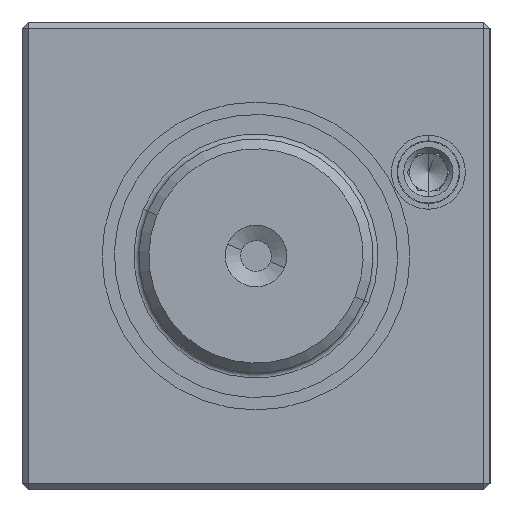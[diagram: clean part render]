
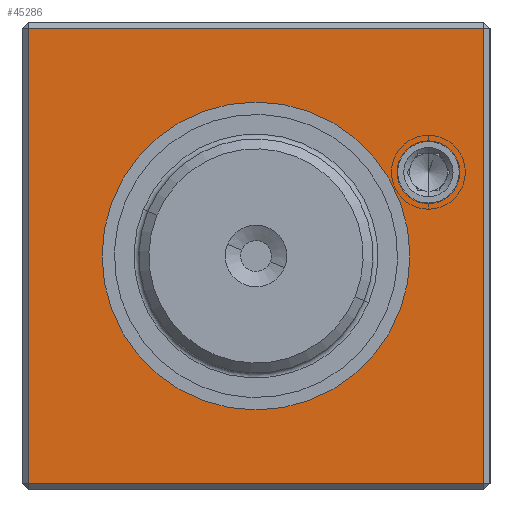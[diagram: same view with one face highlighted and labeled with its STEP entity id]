
A CAD part, left-side view. The second image highlights one B-rep face of the part: STEP entity #45286.
In plain terms, the highlighted planar face has unit normal (-1, 0, 0).
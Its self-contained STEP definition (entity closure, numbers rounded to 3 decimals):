
#2945 = AXIS2_PLACEMENT_3D ( 'NONE', #35385, #35386, #35387 ) ;
#3591 = EDGE_LOOP ( 'NONE', ( #6377, #6378, #6379, #6380 ) ) ;
#4369 = EDGE_LOOP ( 'NONE', ( #6381, #6382 ) ) ;
#4374 = EDGE_LOOP ( 'NONE', ( #6383, #6384 ) ) ;
#6377 = ORIENTED_EDGE ( 'NONE', *, *, #18774, .T. ) ;
#6378 = ORIENTED_EDGE ( 'NONE', *, *, #18776, .T. ) ;
#6379 = ORIENTED_EDGE ( 'NONE', *, *, #18778, .T. ) ;
#6380 = ORIENTED_EDGE ( 'NONE', *, *, #18780, .T. ) ;
#6381 = ORIENTED_EDGE ( 'NONE', *, *, #18782, .F. ) ;
#6382 = ORIENTED_EDGE ( 'NONE', *, *, #18292, .F. ) ;
#6383 = ORIENTED_EDGE ( 'NONE', *, *, #18785, .F. ) ;
#6384 = ORIENTED_EDGE ( 'NONE', *, *, #18525, .F. ) ;
#18292 = EDGE_CURVE ( 'NONE', #56727, #56728, #43669, .T. ) ;
#18525 = EDGE_CURVE ( 'NONE', #56841, #56842, #43999, .T. ) ;
#18774 = EDGE_CURVE ( 'NONE', #56916, #56901, #44328, .T. ) ;
#18776 = EDGE_CURVE ( 'NONE', #56901, #56921, #44339, .T. ) ;
#18778 = EDGE_CURVE ( 'NONE', #56921, #56922, #44346, .T. ) ;
#18780 = EDGE_CURVE ( 'NONE', #56922, #56916, #44342, .T. ) ;
#18782 = EDGE_CURVE ( 'NONE', #56728, #56727, #44353, .T. ) ;
#18785 = EDGE_CURVE ( 'NONE', #56842, #56841, #44359, .T. ) ;
#35154 = FACE_OUTER_BOUND ( 'NONE', #3591, .T. ) ;
#35155 = FACE_BOUND ( 'NONE', #4374, .T. ) ;
#35158 = FACE_BOUND ( 'NONE', #4369, .T. ) ;
#35374 = PLANE ( 'NONE',  #2945 ) ;
#35385 = CARTESIAN_POINT ( 'NONE',  ( 0., -19., 19. ) ) ;
#35386 = DIRECTION ( 'NONE',  ( 1., 0., 0. ) ) ;
#35387 = DIRECTION ( 'NONE',  ( 0., 0., -1. ) ) ;
#36358 = CARTESIAN_POINT ( 'NONE',  ( 0., -14., 4.3 ) ) ;
#36359 = CARTESIAN_POINT ( 'NONE',  ( 0., -14., 9.3 ) ) ;
#36472 = CARTESIAN_POINT ( 'NONE',  ( 0., 12.5, 0. ) ) ;
#36473 = CARTESIAN_POINT ( 'NONE',  ( 0., -12.5, 0. ) ) ;
#36532 = CARTESIAN_POINT ( 'NONE',  ( 0., 18.5, -18.5 ) ) ;
#36547 = CARTESIAN_POINT ( 'NONE',  ( 0., 18.5, 18.5 ) ) ;
#36552 = CARTESIAN_POINT ( 'NONE',  ( 0., -18.5, -18.5 ) ) ;
#36553 = CARTESIAN_POINT ( 'NONE',  ( 0., -18.5, 18.5 ) ) ;
#43523 = CARTESIAN_POINT ( 'NONE',  ( 0., 0., 0. ) ) ;
#43525 = DIRECTION ( 'NONE',  ( -1., 0., 0. ) ) ;
#43527 = DIRECTION ( 'NONE',  ( 0., -1., 0. ) ) ;
#43669 = CIRCLE ( 'NONE', #52365, 2.5 ) ;
#43999 = CIRCLE ( 'NONE', #52437, 12.5 ) ;
#44328 = LINE ( 'NONE', #44795, #44344 ) ;
#44339 = LINE ( 'NONE', #44788, #44349 ) ;
#44342 = LINE ( 'NONE', #44809, #44361 ) ;
#44344 = VECTOR ( 'NONE', #44786, 1000. ) ;
#44346 = LINE ( 'NONE', #44805, #44356 ) ;
#44349 = VECTOR ( 'NONE', #44793, 1000. ) ;
#44353 = CIRCLE ( 'NONE', #52501, 2.5 ) ;
#44356 = VECTOR ( 'NONE', #44814, 1000. ) ;
#44359 = CIRCLE ( 'NONE', #52503, 12.5 ) ;
#44361 = VECTOR ( 'NONE', #44820, 1000. ) ;
#44786 = DIRECTION ( 'NONE',  ( 0., 0., -1. ) ) ;
#44788 = CARTESIAN_POINT ( 'NONE',  ( 0., -19., -18.5 ) ) ;
#44793 = DIRECTION ( 'NONE',  ( 0., -1., 0. ) ) ;
#44795 = CARTESIAN_POINT ( 'NONE',  ( 0., 18.5, 19. ) ) ;
#44805 = CARTESIAN_POINT ( 'NONE',  ( 0., -18.5, 19. ) ) ;
#44809 = CARTESIAN_POINT ( 'NONE',  ( 0., -19., 18.5 ) ) ;
#44814 = DIRECTION ( 'NONE',  ( 0., 0., 1. ) ) ;
#44820 = DIRECTION ( 'NONE',  ( 0., 1., 0. ) ) ;
#44832 = CARTESIAN_POINT ( 'NONE',  ( 0., -14., 6.8 ) ) ;
#44835 = DIRECTION ( 'NONE',  ( -1., 0., 0. ) ) ;
#44838 = DIRECTION ( 'NONE',  ( 0., 0., 1. ) ) ;
#44845 = CARTESIAN_POINT ( 'NONE',  ( 0., 0., 0. ) ) ;
#44847 = DIRECTION ( 'NONE',  ( -1., 0., 0. ) ) ;
#44850 = DIRECTION ( 'NONE',  ( 0., -1., 0. ) ) ;
#45286 = ADVANCED_FACE ( 'NONE', ( #35154, #35158, #35155 ), #35374, .F. ) ;
#47983 = CARTESIAN_POINT ( 'NONE',  ( 0., -14., 6.8 ) ) ;
#47984 = DIRECTION ( 'NONE',  ( -1., 0., 0. ) ) ;
#47985 = DIRECTION ( 'NONE',  ( 0., 0., 1. ) ) ;
#52365 = AXIS2_PLACEMENT_3D ( 'NONE', #47983, #47984, #47985 ) ;
#52437 = AXIS2_PLACEMENT_3D ( 'NONE', #43523, #43525, #43527 ) ;
#52501 = AXIS2_PLACEMENT_3D ( 'NONE', #44832, #44835, #44838 ) ;
#52503 = AXIS2_PLACEMENT_3D ( 'NONE', #44845, #44847, #44850 ) ;
#56727 = VERTEX_POINT ( 'NONE', #36358 ) ;
#56728 = VERTEX_POINT ( 'NONE', #36359 ) ;
#56841 = VERTEX_POINT ( 'NONE', #36472 ) ;
#56842 = VERTEX_POINT ( 'NONE', #36473 ) ;
#56901 = VERTEX_POINT ( 'NONE', #36532 ) ;
#56916 = VERTEX_POINT ( 'NONE', #36547 ) ;
#56921 = VERTEX_POINT ( 'NONE', #36552 ) ;
#56922 = VERTEX_POINT ( 'NONE', #36553 ) ;
